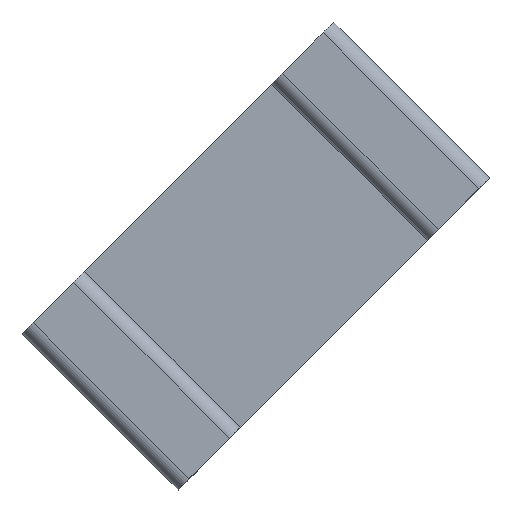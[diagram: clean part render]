
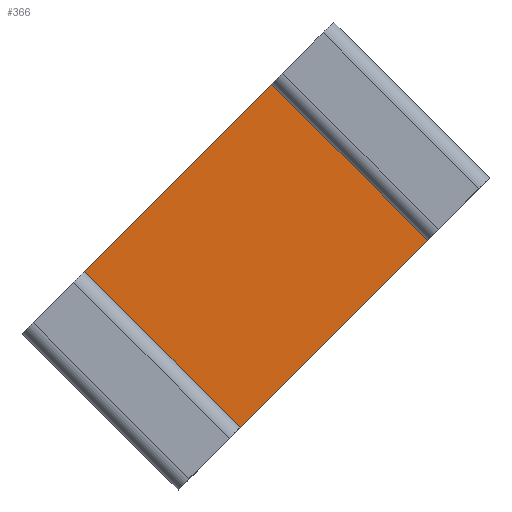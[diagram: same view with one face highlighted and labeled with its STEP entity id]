
A CAD part, top view. The second image highlights one B-rep face of the part: STEP entity #366.
In plain terms, the highlighted planar face has unit normal (0, 0, 1).
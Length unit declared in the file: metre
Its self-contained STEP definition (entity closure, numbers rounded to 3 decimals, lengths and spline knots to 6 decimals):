
#36=ORIENTED_EDGE('',*,*,#144,.F.);
#37=ORIENTED_EDGE('',*,*,#145,.T.);
#38=ORIENTED_EDGE('',*,*,#146,.T.);
#39=ORIENTED_EDGE('',*,*,#147,.F.);
#144=EDGE_CURVE('',#198,#199,#234,.T.);
#145=EDGE_CURVE('',#198,#200,#235,.T.);
#146=EDGE_CURVE('',#200,#201,#236,.T.);
#147=EDGE_CURVE('',#199,#201,#237,.T.);
#198=VERTEX_POINT('',#576);
#199=VERTEX_POINT('',#577);
#200=VERTEX_POINT('',#579);
#201=VERTEX_POINT('',#581);
#234=LINE('',#575,#272);
#235=LINE('',#578,#273);
#236=LINE('',#580,#274);
#237=LINE('',#582,#275);
#272=VECTOR('',#465,1.);
#273=VECTOR('',#466,1.);
#274=VECTOR('',#467,1.);
#275=VECTOR('',#468,1.);
#310=EDGE_LOOP('',(#36,#37,#38,#39));
#330=FACE_BOUND('',#310,.T.);
#350=PLANE('',#425);
#366=ADVANCED_FACE('',(#330),#350,.T.);
#425=AXIS2_PLACEMENT_3D('',#574,#463,#464);
#463=DIRECTION('',(0.,0.,1.));
#464=DIRECTION('',(-0.707,-0.707,0.));
#465=DIRECTION('',(0.707,-0.707,0.));
#466=DIRECTION('',(-0.707,-0.707,0.));
#467=DIRECTION('',(0.707,-0.707,0.));
#468=DIRECTION('',(-0.707,-0.707,0.));
#574=CARTESIAN_POINT('',(0.163985,-0.107111,0.001945));
#575=CARTESIAN_POINT('',(0.163985,-0.107111,0.001945));
#576=CARTESIAN_POINT('',(0.163985,-0.107111,0.001945));
#577=CARTESIAN_POINT('',(0.164339,-0.107465,0.001945));
#578=CARTESIAN_POINT('',(0.163985,-0.107111,0.001945));
#579=CARTESIAN_POINT('',(0.163561,-0.107535,0.001945));
#580=CARTESIAN_POINT('',(0.163561,-0.107535,0.001945));
#581=CARTESIAN_POINT('',(0.163915,-0.107889,0.001945));
#582=CARTESIAN_POINT('',(0.164339,-0.107465,0.001945));
